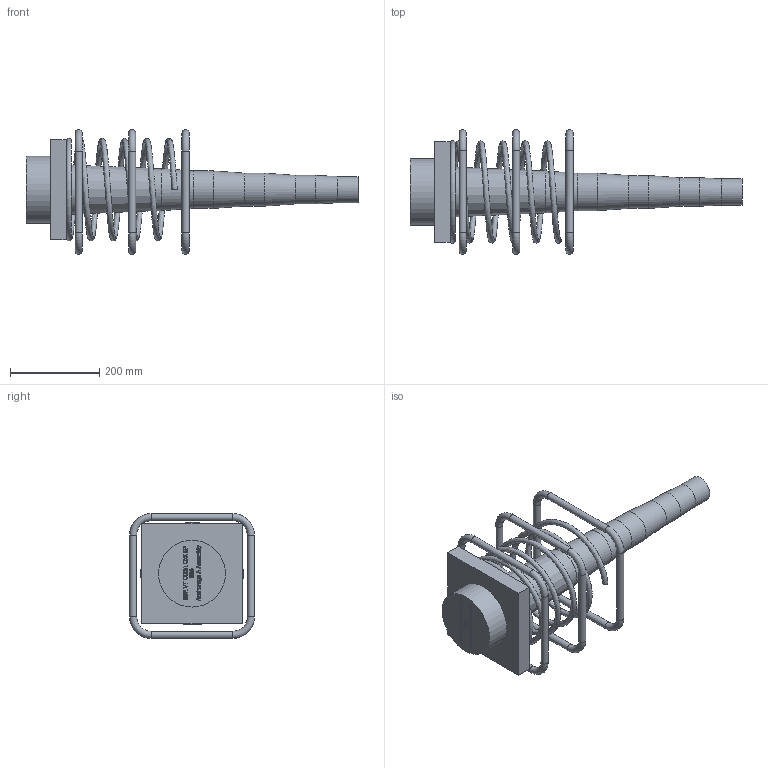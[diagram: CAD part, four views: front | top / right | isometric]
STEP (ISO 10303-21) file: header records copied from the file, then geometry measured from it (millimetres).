
FILE_DESCRIPTION(/* description */ (''),/* implementation_level */ '2;1');
FILE_NAME(/* name */ 'Z:\04 Publications\05 Give-out\BBR\6_3D_Models\BBR VT CONA CMI\BBR VT CONA CMI SP\00806\BBR VT CONA CMI SP 806_Anchorage A Assembly_CS-34,28.stp',/* time_stamp */ '2017-05-10T08:46:13+02:00',/* author */ ('IP'),/* organization */ (''),/* preprocessor_version */ 'ST-DEVELOPER v16.1',/* originating_system */ 'Autodesk Inventor 2016',/* authorisation */ '');
FILE_SCHEMA (('AUTOMOTIVE_DESIGN { 1 0 10303 214 3 1 1 }'));
Length unit declared in the file: millimetre
Products named in the file (1): BBR VT CONA CMI SP 806_Anchorage A Assembly_CS-34,28
Bounding box: 745.1 x 280 x 280 mm (x, y, z)
Volume: 7416500.8 mm3; surface area: 613089.7 mm2
Topology: 5 solids, 5 shells, 637 faces, 1698 edges, 1122 vertices
Faces by surface type: plane 301, bspline 301, torus 17, cylinder 17, cone 1
Full cylindrical faces by diameter (mm): 16 x12, 59 x1, 64 x1, 74 x1, 84 x1, 150 x1
Entity records: 23906 total; most frequent: CARTESIAN_POINT 9534, ORIENTED_EDGE 3328, DIRECTION 1778, EDGE_CURVE 1663, VERTEX_POINT 1121, LINE 1020, VECTOR 1020, EDGE_LOOP 729
